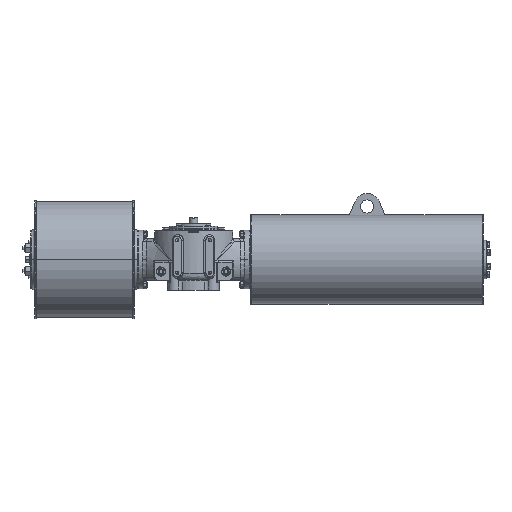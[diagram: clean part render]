
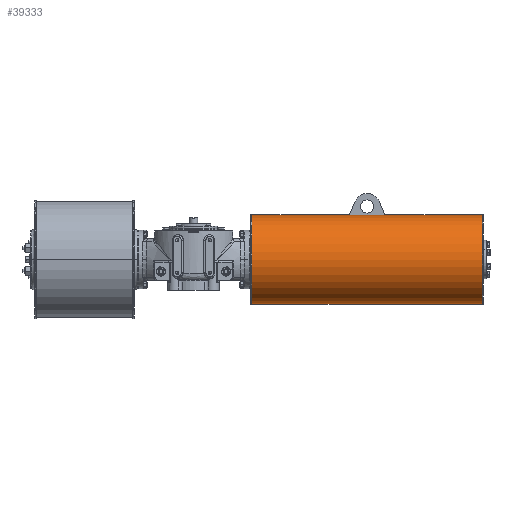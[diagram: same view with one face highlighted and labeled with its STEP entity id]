
A CAD part, front view. The second image highlights one B-rep face of the part: STEP entity #39333.
In plain terms, the highlighted cylindrical face has radius 136.5 mm (diameter 273 mm), a partial arc.
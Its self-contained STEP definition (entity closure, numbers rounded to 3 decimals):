
#744 = LINE ( 'NONE', #38686, #39751 ) ;
#746 = DIRECTION ( 'NONE',  ( 1., 0., 0. ) ) ;
#3550 = CIRCLE ( 'NONE', #67634, 136.5 ) ;
#3885 = CARTESIAN_POINT ( 'NONE',  ( 179.977, -101.204, 2. ) ) ;
#4176 = DIRECTION ( 'NONE',  ( 0., 0., 1. ) ) ;
#5267 = EDGE_CURVE ( 'NONE', #30451, #34034, #28232, .T. ) ;
#5734 = DIRECTION ( 'NONE',  ( 1., 0., 0. ) ) ;
#5961 = VECTOR ( 'NONE', #12101, 1000. ) ;
#6014 = EDGE_LOOP ( 'NONE', ( #54554, #41240, #70383, #56734, #7352, #60948, #42930, #67381, #33006 ) ) ;
#6230 = CARTESIAN_POINT ( 'NONE',  ( 479.477, 30.296, 138.408 ) ) ;
#7352 = ORIENTED_EDGE ( 'NONE', *, *, #11894, .F. ) ;
#7390 = VERTEX_POINT ( 'NONE', #6230 ) ;
#7647 = AXIS2_PLACEMENT_3D ( 'NONE', #57973, #14238, #31450 ) ;
#8088 = LINE ( 'NONE', #52154, #63630 ) ;
#9565 = DIRECTION ( 'NONE',  ( -1., 0., 0. ) ) ;
#10851 = CARTESIAN_POINT ( 'NONE',  ( 587.477, 35.296, 2. ) ) ;
#11894 = EDGE_CURVE ( 'NONE', #26117, #21692, #40385, .T. ) ;
#11905 = DIRECTION ( 'NONE',  ( 1., 0., 0. ) ) ;
#12101 = DIRECTION ( 'NONE',  ( 1., 0., 0. ) ) ;
#13267 = EDGE_CURVE ( 'NONE', #7390, #53506, #30948, .T. ) ;
#13737 = AXIS2_PLACEMENT_3D ( 'NONE', #18686, #40526, #19747 ) ;
#14118 = CARTESIAN_POINT ( 'NONE',  ( 479.477, 35.296, 138.5 ) ) ;
#14238 = DIRECTION ( 'NONE',  ( 1., 0., 0. ) ) ;
#15577 = AXIS2_PLACEMENT_3D ( 'NONE', #10851, #11905, #33782 ) ;
#16688 = CARTESIAN_POINT ( 'NONE',  ( 183.477, 35.296, -134.5 ) ) ;
#17532 = DIRECTION ( 'NONE',  ( -1., 0., 0. ) ) ;
#17934 = VECTOR ( 'NONE', #64743, 1000. ) ;
#18686 = CARTESIAN_POINT ( 'NONE',  ( 183.477, 35.296, 2. ) ) ;
#19034 = CYLINDRICAL_SURFACE ( 'NONE', #13737, 136.5 ) ;
#19747 = DIRECTION ( 'NONE',  ( 0., 0., 1. ) ) ;
#20662 = VERTEX_POINT ( 'NONE', #62260 ) ;
#21692 = VERTEX_POINT ( 'NONE', #62975 ) ;
#21811 = EDGE_CURVE ( 'NONE', #20662, #21692, #3550, .T. ) ;
#26117 = VERTEX_POINT ( 'NONE', #45942 ) ;
#26228 = CARTESIAN_POINT ( 'NONE',  ( 479.477, 35.296, 2. ) ) ;
#26368 = LINE ( 'NONE', #16688, #17934 ) ;
#27231 = DIRECTION ( 'NONE',  ( 0., 0., 1. ) ) ;
#27954 = CARTESIAN_POINT ( 'NONE',  ( 179.977, 35.296, 2. ) ) ;
#28232 = CIRCLE ( 'NONE', #47719, 136.5 ) ;
#30451 = VERTEX_POINT ( 'NONE', #3885 ) ;
#30948 = CIRCLE ( 'NONE', #35358, 136.5 ) ;
#31278 = VERTEX_POINT ( 'NONE', #58109 ) ;
#31289 = DIRECTION ( 'NONE',  ( -1., 0., 0. ) ) ;
#31450 = DIRECTION ( 'NONE',  ( 0., 0., 1. ) ) ;
#33006 = ORIENTED_EDGE ( 'NONE', *, *, #52482, .F. ) ;
#33444 = CARTESIAN_POINT ( 'NONE',  ( 179.977, 35.296, 138.5 ) ) ;
#33782 = DIRECTION ( 'NONE',  ( 0., -1., 0. ) ) ;
#34034 = VERTEX_POINT ( 'NONE', #51177 ) ;
#34322 = CARTESIAN_POINT ( 'NONE',  ( 183.477, 35.296, 138.5 ) ) ;
#35358 = AXIS2_PLACEMENT_3D ( 'NONE', #26228, #31289, #42343 ) ;
#36774 = CARTESIAN_POINT ( 'NONE',  ( 886.977, 35.296, 2. ) ) ;
#38686 = CARTESIAN_POINT ( 'NONE',  ( 183.477, 35.296, 138.5 ) ) ;
#39333 = ADVANCED_FACE ( 'NONE', ( #51994 ), #19034, .T. ) ;
#39751 = VECTOR ( 'NONE', #5734, 1000. ) ;
#40385 = LINE ( 'NONE', #34322, #5961 ) ;
#40526 = DIRECTION ( 'NONE',  ( 1., 0., 0. ) ) ;
#41240 = ORIENTED_EDGE ( 'NONE', *, *, #5267, .T. ) ;
#42343 = DIRECTION ( 'NONE',  ( 0., 1., 0. ) ) ;
#42930 = ORIENTED_EDGE ( 'NONE', *, *, #66105, .T. ) ;
#44156 = CIRCLE ( 'NONE', #15577, 136.5 ) ;
#45942 = CARTESIAN_POINT ( 'NONE',  ( 587.477, 35.296, 138.5 ) ) ;
#47719 = AXIS2_PLACEMENT_3D ( 'NONE', #27954, #746, #27231 ) ;
#48696 = CIRCLE ( 'NONE', #7647, 136.5 ) ;
#51058 = EDGE_CURVE ( 'NONE', #26117, #31278, #44156, .T. ) ;
#51177 = CARTESIAN_POINT ( 'NONE',  ( 179.977, 35.296, -134.5 ) ) ;
#51823 = EDGE_CURVE ( 'NONE', #34034, #20662, #26368, .T. ) ;
#51994 = FACE_OUTER_BOUND ( 'NONE', #6014, .T. ) ;
#52154 = CARTESIAN_POINT ( 'NONE',  ( 183.477, 30.296, 138.408 ) ) ;
#52482 = EDGE_CURVE ( 'NONE', #70103, #53506, #744, .T. ) ;
#53506 = VERTEX_POINT ( 'NONE', #14118 ) ;
#54554 = ORIENTED_EDGE ( 'NONE', *, *, #67725, .T. ) ;
#56734 = ORIENTED_EDGE ( 'NONE', *, *, #21811, .T. ) ;
#57973 = CARTESIAN_POINT ( 'NONE',  ( 179.977, 35.296, 2. ) ) ;
#58109 = CARTESIAN_POINT ( 'NONE',  ( 587.477, 30.296, 138.408 ) ) ;
#60948 = ORIENTED_EDGE ( 'NONE', *, *, #51058, .T. ) ;
#62260 = CARTESIAN_POINT ( 'NONE',  ( 886.977, 35.296, -134.5 ) ) ;
#62975 = CARTESIAN_POINT ( 'NONE',  ( 886.977, 35.296, 138.5 ) ) ;
#63630 = VECTOR ( 'NONE', #17532, 1000. ) ;
#64743 = DIRECTION ( 'NONE',  ( 1., 0., 0. ) ) ;
#66105 = EDGE_CURVE ( 'NONE', #31278, #7390, #8088, .T. ) ;
#67381 = ORIENTED_EDGE ( 'NONE', *, *, #13267, .T. ) ;
#67634 = AXIS2_PLACEMENT_3D ( 'NONE', #36774, #9565, #4176 ) ;
#67725 = EDGE_CURVE ( 'NONE', #70103, #30451, #48696, .T. ) ;
#70103 = VERTEX_POINT ( 'NONE', #33444 ) ;
#70383 = ORIENTED_EDGE ( 'NONE', *, *, #51823, .T. ) ;
